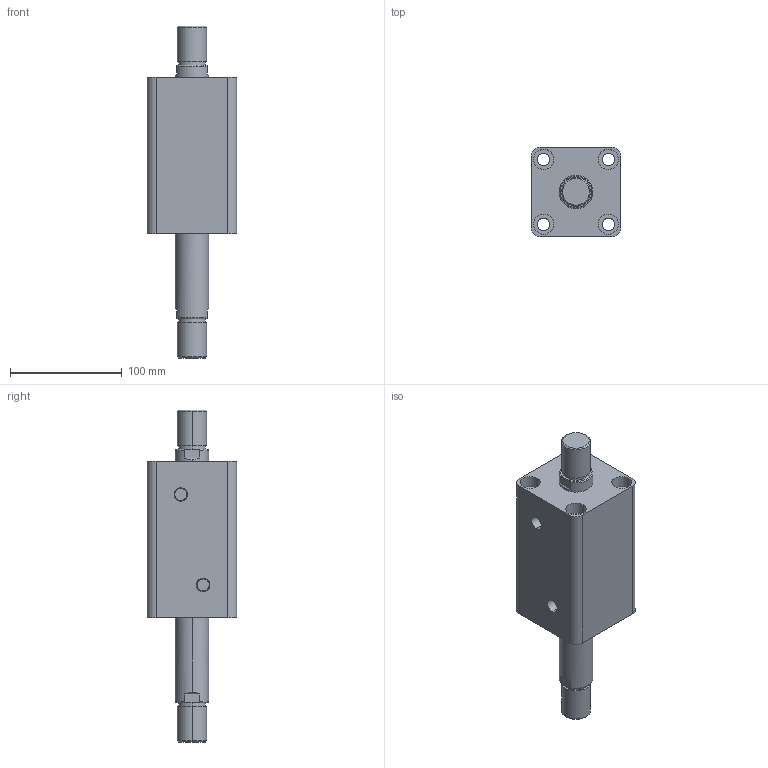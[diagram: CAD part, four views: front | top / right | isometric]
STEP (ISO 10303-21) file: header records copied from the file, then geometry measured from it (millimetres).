
FILE_DESCRIPTION (( 'STEP AP203' ), '1' );
FILE_NAME ('HTB-SW50-65W.STEP', '2019-10-07T09:23:05', ( '微软用户' ), ( '微软中国' ), 'SwSTEP 2.0', 'SolidWorks 2012', '' );
FILE_SCHEMA (( 'CONFIG_CONTROL_DESIGN' ));
Length unit declared in the file: millimetre
Products named in the file (3): HTB-SW50-65W; HTB-SW50-65W活塞杆; HTB-SW50-65掛极
Assembly tree (2 placements, depth 2):
  HTB-SW50-65W
    HTB-SW50-65掛极
    HTB-SW50-65W活塞杆
Bounding box: 80 x 80 x 297 mm (x, y, z)
Volume: 834946.4 mm3; surface area: 128902.1 mm2
Topology: 2 solids, 2 shells, 108 faces, 240 edges, 156 vertices
Faces by surface type: cylinder 52, plane 36, torus 12, cone 8
Entity records: 3449 total; most frequent: CARTESIAN_POINT 629, DIRECTION 586, ORIENTED_EDGE 480, AXIS2_PLACEMENT_3D 249, EDGE_CURVE 240, VERTEX_POINT 156, EDGE_LOOP 138, CIRCLE 136
